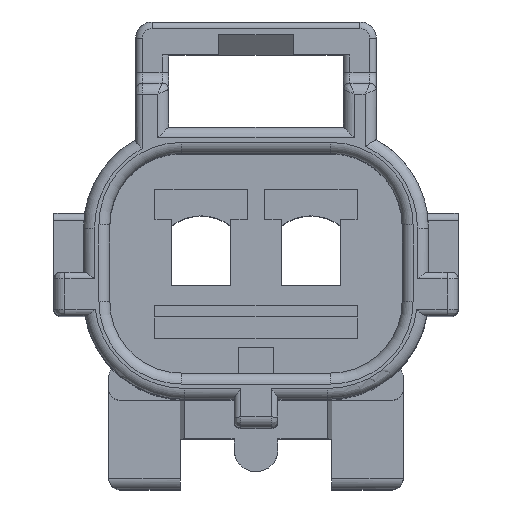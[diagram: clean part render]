
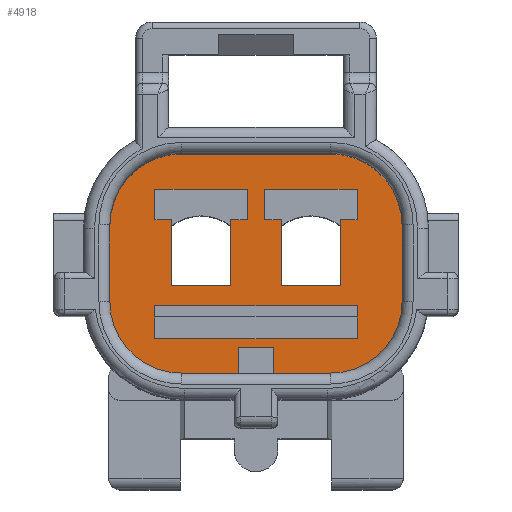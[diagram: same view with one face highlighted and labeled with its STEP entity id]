
A CAD part, top view. The second image highlights one B-rep face of the part: STEP entity #4918.
In plain terms, the highlighted planar face has unit normal (0, 0, 1).
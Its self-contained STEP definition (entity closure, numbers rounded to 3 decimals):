
#228=DIRECTION('',(0.,-1.,0.));
#229=VECTOR('',#228,1.4);
#230=CARTESIAN_POINT('',(-4.6,3.4,-18.2));
#231=LINE('',#230,#229);
#232=DIRECTION('',(1.,0.,0.));
#233=VECTOR('',#232,0.75);
#234=CARTESIAN_POINT('',(-4.6,2.,-18.2));
#235=LINE('',#234,#233);
#236=DIRECTION('',(0.,-1.,0.));
#237=VECTOR('',#236,3.);
#238=CARTESIAN_POINT('',(-3.85,2.,-18.2));
#239=LINE('',#238,#237);
#240=DIRECTION('',(1.,0.,0.));
#241=VECTOR('',#240,2.7);
#242=CARTESIAN_POINT('',(-3.85,-1.,-18.2));
#243=LINE('',#242,#241);
#244=DIRECTION('',(0.,1.,0.));
#245=VECTOR('',#244,3.);
#246=CARTESIAN_POINT('',(-1.15,-1.,-18.2));
#247=LINE('',#246,#245);
#248=DIRECTION('',(1.,0.,0.));
#249=VECTOR('',#248,0.75);
#250=CARTESIAN_POINT('',(-1.15,2.,-18.2));
#251=LINE('',#250,#249);
#252=DIRECTION('',(0.,1.,0.));
#253=VECTOR('',#252,1.4);
#254=CARTESIAN_POINT('',(-0.4,2.,-18.2));
#255=LINE('',#254,#253);
#256=DIRECTION('',(-1.,0.,0.));
#257=VECTOR('',#256,4.2);
#258=CARTESIAN_POINT('',(-0.4,3.4,-18.2));
#259=LINE('',#258,#257);
#260=DIRECTION('',(0.,-1.,0.));
#261=VECTOR('',#260,3.);
#262=CARTESIAN_POINT('',(1.15,2.,-18.2));
#263=LINE('',#262,#261);
#264=DIRECTION('',(1.,0.,0.));
#265=VECTOR('',#264,2.7);
#266=CARTESIAN_POINT('',(1.15,-1.,-18.2));
#267=LINE('',#266,#265);
#268=DIRECTION('',(0.,1.,0.));
#269=VECTOR('',#268,3.);
#270=CARTESIAN_POINT('',(3.85,-1.,-18.2));
#271=LINE('',#270,#269);
#272=DIRECTION('',(1.,0.,0.));
#273=VECTOR('',#272,0.75);
#274=CARTESIAN_POINT('',(3.85,2.,-18.2));
#275=LINE('',#274,#273);
#276=DIRECTION('',(0.,1.,0.));
#277=VECTOR('',#276,1.4);
#278=CARTESIAN_POINT('',(4.6,2.,-18.2));
#279=LINE('',#278,#277);
#280=DIRECTION('',(-1.,0.,0.));
#281=VECTOR('',#280,4.2);
#282=CARTESIAN_POINT('',(4.6,3.4,-18.2));
#283=LINE('',#282,#281);
#284=DIRECTION('',(0.,-1.,0.));
#285=VECTOR('',#284,1.4);
#286=CARTESIAN_POINT('',(0.4,3.4,-18.2));
#287=LINE('',#286,#285);
#288=DIRECTION('',(1.,0.,0.));
#289=VECTOR('',#288,0.75);
#290=CARTESIAN_POINT('',(0.4,2.,-18.2));
#291=LINE('',#290,#289);
#292=DIRECTION('',(0.,1.,0.));
#293=VECTOR('',#292,1.2);
#294=CARTESIAN_POINT('',(-0.8,-5.,-18.2));
#295=LINE('',#294,#293);
#296=DIRECTION('',(1.,0.,0.));
#297=VECTOR('',#296,2.6);
#298=CARTESIAN_POINT('',(-3.4,-5.,-18.2));
#299=LINE('',#298,#297);
#300=CARTESIAN_POINT('',(-3.4,-1.75,-18.2));
#301=DIRECTION('',(0.,0.,1.));
#302=DIRECTION('',(-1.,0.,0.));
#303=AXIS2_PLACEMENT_3D('',#300,#301,#302);
#305=DIRECTION('',(0.,-1.,0.));
#306=VECTOR('',#305,3.5);
#307=CARTESIAN_POINT('',(-6.65,1.75,-18.2));
#308=LINE('',#307,#306);
#309=CARTESIAN_POINT('',(-3.4,1.75,-18.2));
#310=DIRECTION('',(0.,0.,1.));
#311=DIRECTION('',(0.,1.,0.));
#312=AXIS2_PLACEMENT_3D('',#309,#310,#311);
#314=DIRECTION('',(-1.,0.,0.));
#315=VECTOR('',#314,6.8);
#316=CARTESIAN_POINT('',(3.4,5.,-18.2));
#317=LINE('',#316,#315);
#318=CARTESIAN_POINT('',(3.4,1.75,-18.2));
#319=DIRECTION('',(0.,0.,1.));
#320=DIRECTION('',(1.,0.,0.));
#321=AXIS2_PLACEMENT_3D('',#318,#319,#320);
#323=DIRECTION('',(0.,1.,0.));
#324=VECTOR('',#323,3.5);
#325=CARTESIAN_POINT('',(6.65,-1.75,-18.2));
#326=LINE('',#325,#324);
#327=CARTESIAN_POINT('',(3.4,-1.75,-18.2));
#328=DIRECTION('',(0.,0.,1.));
#329=DIRECTION('',(0.,-1.,0.));
#330=AXIS2_PLACEMENT_3D('',#327,#328,#329);
#332=DIRECTION('',(1.,0.,0.));
#333=VECTOR('',#332,2.6);
#334=CARTESIAN_POINT('',(0.8,-5.,-18.2));
#335=LINE('',#334,#333);
#336=DIRECTION('',(0.,1.,0.));
#337=VECTOR('',#336,1.2);
#338=CARTESIAN_POINT('',(0.8,-5.,-18.2));
#339=LINE('',#338,#337);
#340=DIRECTION('',(1.,0.,0.));
#341=VECTOR('',#340,1.6);
#342=CARTESIAN_POINT('',(-0.8,-3.8,-18.2));
#343=LINE('',#342,#341);
#344=DIRECTION('',(0.,1.,0.));
#345=VECTOR('',#344,1.5);
#346=CARTESIAN_POINT('',(4.6,-3.4,-18.2));
#347=LINE('',#346,#345);
#348=DIRECTION('',(1.,0.,0.));
#349=VECTOR('',#348,9.2);
#350=CARTESIAN_POINT('',(-4.6,-1.9,-18.2));
#351=LINE('',#350,#349);
#352=DIRECTION('',(0.,1.,0.));
#353=VECTOR('',#352,1.5);
#354=CARTESIAN_POINT('',(-4.6,-3.4,-18.2));
#355=LINE('',#354,#353);
#356=DIRECTION('',(1.,0.,0.));
#357=VECTOR('',#356,9.2);
#358=CARTESIAN_POINT('',(-4.6,-3.4,-18.2));
#359=LINE('',#358,#357);
#3656=CARTESIAN_POINT('',(-3.4,5.,-18.2));
#3657=CARTESIAN_POINT('',(-6.65,1.75,-18.2));
#3658=VERTEX_POINT('',#3656);
#3659=VERTEX_POINT('',#3657);
#3660=CARTESIAN_POINT('',(-6.65,-1.75,-18.2));
#3661=VERTEX_POINT('',#3660);
#3662=CARTESIAN_POINT('',(-3.4,-5.,-18.2));
#3663=VERTEX_POINT('',#3662);
#3664=CARTESIAN_POINT('',(3.4,-5.,-18.2));
#3665=CARTESIAN_POINT('',(6.65,-1.75,-18.2));
#3666=VERTEX_POINT('',#3664);
#3667=VERTEX_POINT('',#3665);
#3668=CARTESIAN_POINT('',(6.65,1.75,-18.2));
#3669=VERTEX_POINT('',#3668);
#3670=CARTESIAN_POINT('',(3.4,5.,-18.2));
#3671=VERTEX_POINT('',#3670);
#3688=CARTESIAN_POINT('',(-4.6,3.4,-18.2));
#3689=CARTESIAN_POINT('',(-4.6,2.,-18.2));
#3690=VERTEX_POINT('',#3688);
#3691=VERTEX_POINT('',#3689);
#3692=CARTESIAN_POINT('',(-0.8,-5.,-18.2));
#3693=CARTESIAN_POINT('',(-0.8,-3.8,-18.2));
#3694=VERTEX_POINT('',#3692);
#3695=VERTEX_POINT('',#3693);
#3696=CARTESIAN_POINT('',(0.8,-5.,-18.2));
#3697=CARTESIAN_POINT('',(0.8,-3.8,-18.2));
#3698=VERTEX_POINT('',#3696);
#3699=VERTEX_POINT('',#3697);
#3853=CARTESIAN_POINT('',(-3.85,2.,-18.2));
#3854=VERTEX_POINT('',#3853);
#3855=CARTESIAN_POINT('',(-3.85,-1.,-18.2));
#3856=VERTEX_POINT('',#3855);
#3857=CARTESIAN_POINT('',(-1.15,-1.,-18.2));
#3858=VERTEX_POINT('',#3857);
#3859=CARTESIAN_POINT('',(-1.15,2.,-18.2));
#3860=VERTEX_POINT('',#3859);
#3861=CARTESIAN_POINT('',(-0.4,2.,-18.2));
#3862=VERTEX_POINT('',#3861);
#3863=CARTESIAN_POINT('',(1.15,2.,-18.2));
#3864=CARTESIAN_POINT('',(1.15,-1.,-18.2));
#3865=VERTEX_POINT('',#3863);
#3866=VERTEX_POINT('',#3864);
#3867=CARTESIAN_POINT('',(3.85,-1.,-18.2));
#3868=VERTEX_POINT('',#3867);
#3869=CARTESIAN_POINT('',(3.85,2.,-18.2));
#3870=VERTEX_POINT('',#3869);
#3871=CARTESIAN_POINT('',(4.6,2.,-18.2));
#3872=VERTEX_POINT('',#3871);
#3873=CARTESIAN_POINT('',(4.6,3.4,-18.2));
#3874=VERTEX_POINT('',#3873);
#3875=CARTESIAN_POINT('',(-0.4,3.4,-18.2));
#3876=VERTEX_POINT('',#3875);
#3883=CARTESIAN_POINT('',(0.4,3.4,-18.2));
#3884=VERTEX_POINT('',#3883);
#3885=CARTESIAN_POINT('',(0.4,2.,-18.2));
#3886=VERTEX_POINT('',#3885);
#3935=CARTESIAN_POINT('',(4.6,-3.4,-18.2));
#3936=CARTESIAN_POINT('',(4.6,-1.9,-18.2));
#3937=VERTEX_POINT('',#3935);
#3938=VERTEX_POINT('',#3936);
#3939=CARTESIAN_POINT('',(-4.6,-3.4,-18.2));
#3940=CARTESIAN_POINT('',(-4.6,-1.9,-18.2));
#3941=VERTEX_POINT('',#3939);
#3942=VERTEX_POINT('',#3940);
#4850=CARTESIAN_POINT('',(0.,0.,-18.2));
#4851=DIRECTION('',(0.,0.,1.));
#4852=DIRECTION('',(1.,0.,0.));
#4853=AXIS2_PLACEMENT_3D('',#4850,#4851,#4852);
#4854=PLANE('',#4853);
#4856=ORIENTED_EDGE('',*,*,#4855,.F.);
#4857=ORIENTED_EDGE('',*,*,#4809,.F.);
#4858=ORIENTED_EDGE('',*,*,#4831,.F.);
#4859=ORIENTED_EDGE('',*,*,#4844,.F.);
#4860=ORIENTED_EDGE('',*,*,#4738,.F.);
#4861=ORIENTED_EDGE('',*,*,#4753,.F.);
#4862=ORIENTED_EDGE('',*,*,#4767,.F.);
#4863=ORIENTED_EDGE('',*,*,#4781,.F.);
#4864=ORIENTED_EDGE('',*,*,#4795,.F.);
#4865=ORIENTED_EDGE('',*,*,#4817,.F.);
#4867=ORIENTED_EDGE('',*,*,#4866,.T.);
#4869=ORIENTED_EDGE('',*,*,#4868,.F.);
#4870=EDGE_LOOP('',(#4856,#4857,#4858,#4859,#4860,#4861,#4862,#4863,#4864,#4865,
#4867,#4869));
#4871=FACE_OUTER_BOUND('',#4870,.F.);
#4873=ORIENTED_EDGE('',*,*,#4872,.T.);
#4875=ORIENTED_EDGE('',*,*,#4874,.T.);
#4877=ORIENTED_EDGE('',*,*,#4876,.T.);
#4879=ORIENTED_EDGE('',*,*,#4878,.T.);
#4881=ORIENTED_EDGE('',*,*,#4880,.T.);
#4883=ORIENTED_EDGE('',*,*,#4882,.T.);
#4885=ORIENTED_EDGE('',*,*,#4884,.T.);
#4887=ORIENTED_EDGE('',*,*,#4886,.T.);
#4888=EDGE_LOOP('',(#4873,#4875,#4877,#4879,#4881,#4883,#4885,#4887));
#4889=FACE_BOUND('',#4888,.F.);
#4891=ORIENTED_EDGE('',*,*,#4890,.T.);
#4893=ORIENTED_EDGE('',*,*,#4892,.T.);
#4895=ORIENTED_EDGE('',*,*,#4894,.T.);
#4897=ORIENTED_EDGE('',*,*,#4896,.T.);
#4899=ORIENTED_EDGE('',*,*,#4898,.T.);
#4901=ORIENTED_EDGE('',*,*,#4900,.T.);
#4903=ORIENTED_EDGE('',*,*,#4902,.T.);
#4905=ORIENTED_EDGE('',*,*,#4904,.T.);
#4906=EDGE_LOOP('',(#4891,#4893,#4895,#4897,#4899,#4901,#4903,#4905));
#4907=FACE_BOUND('',#4906,.F.);
#4909=ORIENTED_EDGE('',*,*,#4908,.T.);
#4911=ORIENTED_EDGE('',*,*,#4910,.F.);
#4913=ORIENTED_EDGE('',*,*,#4912,.F.);
#4915=ORIENTED_EDGE('',*,*,#4914,.T.);
#4916=EDGE_LOOP('',(#4909,#4911,#4913,#4915));
#4917=FACE_BOUND('',#4916,.F.);
#4918=ADVANCED_FACE('',(#4871,#4889,#4907,#4917),#4854,.T.);
#304=CIRCLE('',#303,3.25);
#313=CIRCLE('',#312,3.25);
#322=CIRCLE('',#321,3.25);
#331=CIRCLE('',#330,3.25);
#4738=EDGE_CURVE('',#3658,#3659,#313,.T.);
#4753=EDGE_CURVE('',#3671,#3658,#317,.T.);
#4767=EDGE_CURVE('',#3669,#3671,#322,.T.);
#4781=EDGE_CURVE('',#3667,#3669,#326,.T.);
#4795=EDGE_CURVE('',#3666,#3667,#331,.T.);
#4809=EDGE_CURVE('',#3663,#3694,#299,.T.);
#4817=EDGE_CURVE('',#3698,#3666,#335,.T.);
#4831=EDGE_CURVE('',#3661,#3663,#304,.T.);
#4844=EDGE_CURVE('',#3659,#3661,#308,.T.);
#4855=EDGE_CURVE('',#3694,#3695,#295,.T.);
#4866=EDGE_CURVE('',#3698,#3699,#339,.T.);
#4868=EDGE_CURVE('',#3695,#3699,#343,.T.);
#4872=EDGE_CURVE('',#3690,#3691,#231,.T.);
#4874=EDGE_CURVE('',#3691,#3854,#235,.T.);
#4876=EDGE_CURVE('',#3854,#3856,#239,.T.);
#4878=EDGE_CURVE('',#3856,#3858,#243,.T.);
#4880=EDGE_CURVE('',#3858,#3860,#247,.T.);
#4882=EDGE_CURVE('',#3860,#3862,#251,.T.);
#4884=EDGE_CURVE('',#3862,#3876,#255,.T.);
#4886=EDGE_CURVE('',#3876,#3690,#259,.T.);
#4890=EDGE_CURVE('',#3865,#3866,#263,.T.);
#4892=EDGE_CURVE('',#3866,#3868,#267,.T.);
#4894=EDGE_CURVE('',#3868,#3870,#271,.T.);
#4896=EDGE_CURVE('',#3870,#3872,#275,.T.);
#4898=EDGE_CURVE('',#3872,#3874,#279,.T.);
#4900=EDGE_CURVE('',#3874,#3884,#283,.T.);
#4902=EDGE_CURVE('',#3884,#3886,#287,.T.);
#4904=EDGE_CURVE('',#3886,#3865,#291,.T.);
#4908=EDGE_CURVE('',#3937,#3938,#347,.T.);
#4910=EDGE_CURVE('',#3942,#3938,#351,.T.);
#4912=EDGE_CURVE('',#3941,#3942,#355,.T.);
#4914=EDGE_CURVE('',#3941,#3937,#359,.T.);
